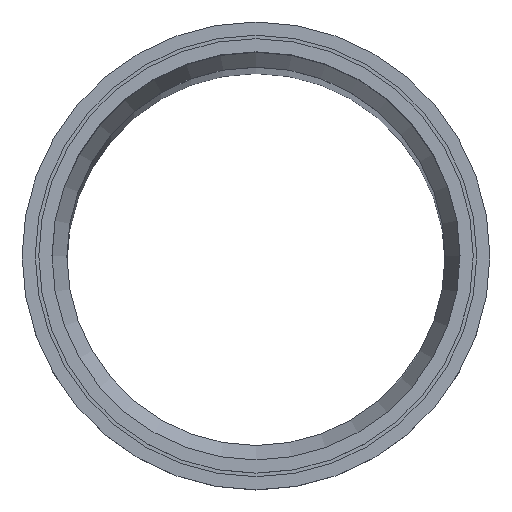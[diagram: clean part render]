
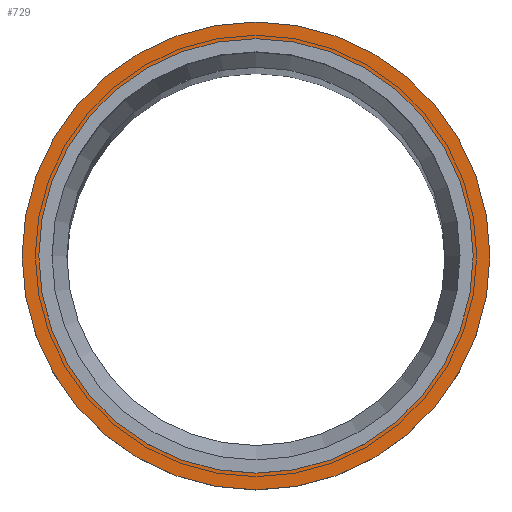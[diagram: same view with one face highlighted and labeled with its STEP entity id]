
A CAD part, top view. The second image highlights one B-rep face of the part: STEP entity #729.
In plain terms, the highlighted planar face has unit normal (0, 0, 1) as drawn and (1, 0, 0) by its records, which use the part's own axes.
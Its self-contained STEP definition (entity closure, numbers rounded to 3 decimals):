
#110=PLANE($,#811);
#138=FACE_BOUND($,#249,.T.);
#139=FACE_BOUND($,#250,.T.);
#249=EDGE_LOOP($,(#620));
#250=EDGE_LOOP($,(#621));
#299=CIRCLE($,#810,63.7);
#300=CIRCLE($,#812,59.15);
#370=VERTEX_POINT($,#1943);
#371=VERTEX_POINT($,#1946);
#457=EDGE_CURVE($,#370,#370,#299,.T.);
#458=EDGE_CURVE($,#371,#371,#300,.T.);
#620=ORIENTED_EDGE($,*,*,#458,.F.);
#621=ORIENTED_EDGE($,*,*,#457,.T.);
#729=ADVANCED_FACE($,(#138,#139),#110,.T.);
#810=AXIS2_PLACEMENT_3D($,#1944,#967,#968);
#811=AXIS2_PLACEMENT_3D($,#1945,#969,#970);
#812=AXIS2_PLACEMENT_3D($,#1947,#971,#972);
#967=DIRECTION('center_axis',(1.,0.,0.));
#968=DIRECTION('ref_axis',(0.,1.,0.));
#969=DIRECTION('center_axis',(1.,0.,0.));
#970=DIRECTION('ref_axis',(0.,0.,-1.));
#971=DIRECTION('center_axis',(1.,0.,0.));
#972=DIRECTION('ref_axis',(0.,1.,0.));
#1943=CARTESIAN_POINT('',(75.6,63.7,0.));
#1944=CARTESIAN_POINT('Origin',(75.6,0.,0.));
#1945=CARTESIAN_POINT('Origin',(75.6,61.425,0.));
#1946=CARTESIAN_POINT('',(75.6,59.15,0.));
#1947=CARTESIAN_POINT('Origin',(75.6,0.,0.));
